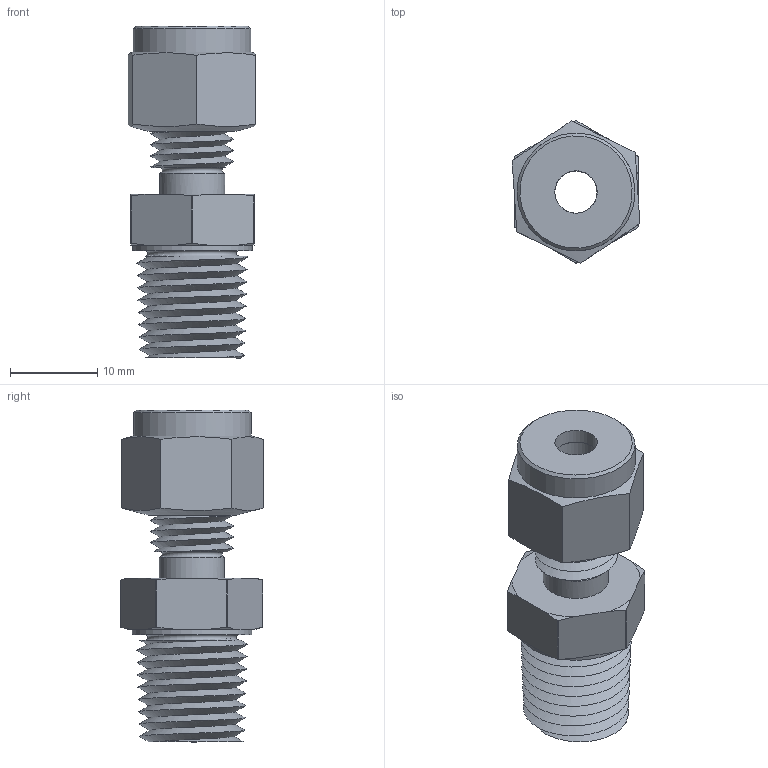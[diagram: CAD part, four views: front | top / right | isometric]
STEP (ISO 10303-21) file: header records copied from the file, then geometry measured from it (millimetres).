
FILE_DESCRIPTION(/* description */ (''),/* implementation_level */ '2;1');
FILE_NAME(/* name */ 'C:\Users\JN\Documents\CAD Drawings\The Sensor Connection\3D\CF\CF-0187-NPT\CF-0187-14-NPT.stp',/* time_stamp */ '2017-11-14T12:10:47-05:00',/* author */ ('JN'),/* organization */ (''),/* preprocessor_version */ 'ST-DEVELOPER v15.6',/* originating_system */ 'Autodesk Inventor 2015',/* authorisation */ '');
FILE_SCHEMA (('AUTOMOTIVE_DESIGN { 1 0 10303 214 3 1 1 }'));
Length unit declared in the file: inch
Products named in the file (5): CF-0187-NPT Bottom Ferrule; CF-0187-NPT Cap; CF-0187-NPT Top Ferrule; CF-0187-14-NPT Threaded Body; CF-0187-14-NPT
Assembly tree (4 placements, depth 2):
  CF-0187-14-NPT
    CF-0187-NPT Bottom Ferrule
    CF-0187-NPT Cap
    CF-0187-NPT Top Ferrule
    CF-0187-14-NPT Threaded Body
Bounding box: 14.67 x 16.37 x 38.11 mm (x, y, z)
Volume: 3749.5 mm3; surface area: 4212.4 mm2
Topology: 4 solids, 4 shells, 84 faces, 211 edges, 140 vertices
Faces by surface type: plane 34, cone 21, cylinder 18, bspline 7, torus 4
Full cylindrical faces by diameter (mm): 4.877 x4, 6.096 x1, 6.121 x1, 7.493 x2, 7.531 x1, 9.677 x1, 13.525 x1, 13.716 x1
Entity records: 6660 total; most frequent: CARTESIAN_POINT 4808, ORIENTED_EDGE 356, DIRECTION 334, EDGE_CURVE 178, AXIS2_PLACEMENT_3D 151, VERTEX_POINT 130, EDGE_LOOP 120, FACE_OUTER_BOUND 84
